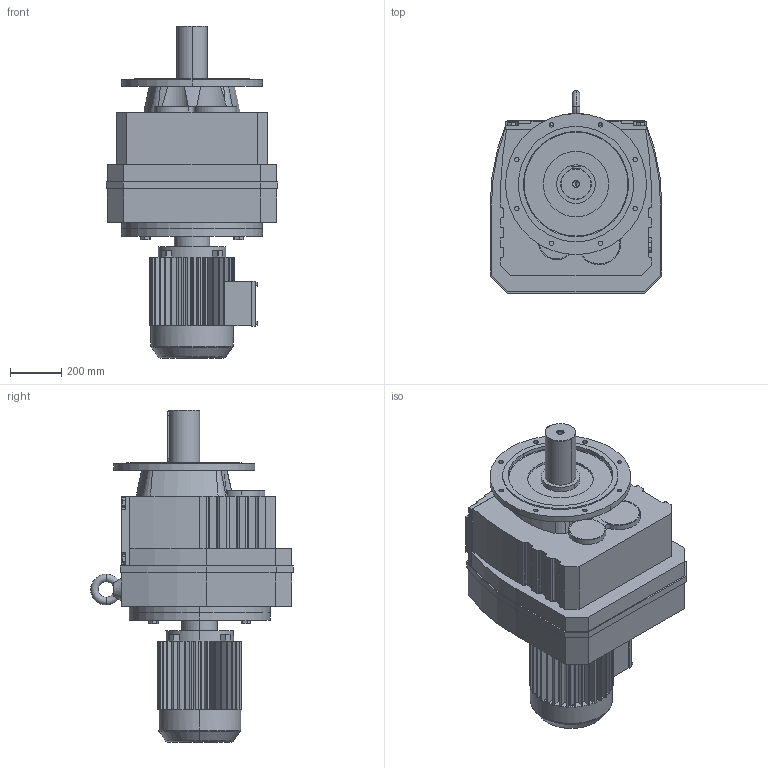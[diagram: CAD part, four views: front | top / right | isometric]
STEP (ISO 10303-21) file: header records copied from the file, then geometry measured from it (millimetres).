
FILE_DESCRIPTION(('Open CASCADE Model'),'2;1');
FILE_NAME('Open CASCADE Shape Model','2021-07-14T11:10:51',('Author'),( 'Open CASCADE'),'Open CASCADE STEP processor 6.3','Open CASCADE 6.3' ,'Unknown');
FILE_SCHEMA(('AUTOMOTIVE_DESIGN_CC2 { 1 2 10303 214 -1 1 5 4 }'));
Length unit declared in the file: millimetre
Products named in the file (3): 1_RF167-Y160M-550; RF37‵167_167_550.step; 萇儂_550_Y160M.step
Assembly tree (2 placements, depth 2):
  1_RF167-Y160M-550
    RF37‵167_167_550.step
    萇儂_550_Y160M.step
Bounding box: 670 x 790 x 1295 mm (x, y, z)
Volume: 229836518 mm3; surface area: 4309561.1 mm2
Topology: 2 solids, 2 shells, 739 faces, 1951 edges, 1262 vertices
Faces by surface type: plane 510, cylinder 197, cone 20, torus 12
Entity records: 52024 total; most frequent: CARTESIAN_POINT 14839, DIRECTION 6466, ORIENTED_EDGE 3898, PCURVE 3898, DEFINITIONAL_REPRESENTATION 3898, LINE 3514, VECTOR 3514, EDGE_CURVE 1949
